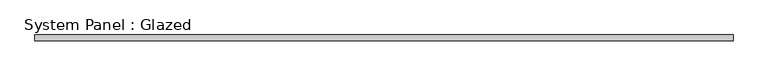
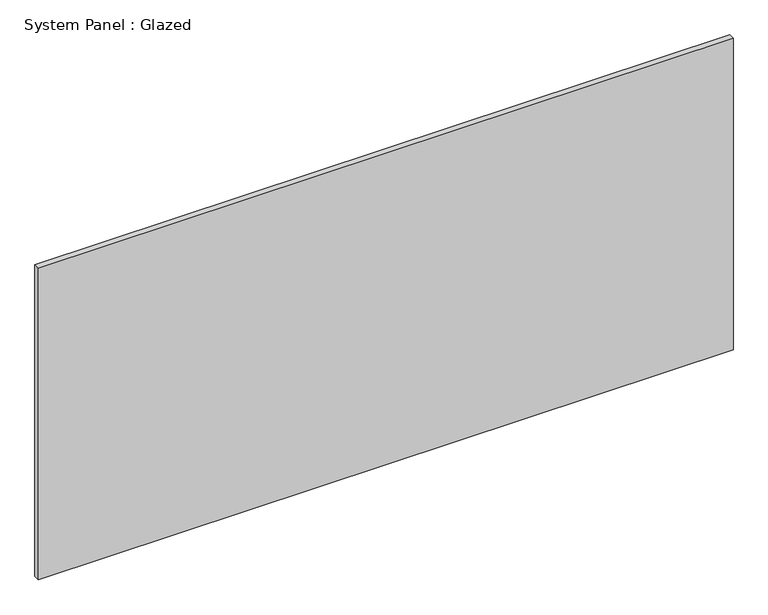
"""IFC4 building model written with IfcOpenShell, lengths in millimetres: plate geometry, System Panel : Glazed."""

from ifc_helpers import new_model, si_unit, origin, origin_with_axes, place, context, project, spatial, polyline, outline, extrude, source, transform, mapped, element, save


def system_panel_glazed_b1d937cd(model_context):
    return source(origin(), model_context, "Body", "SweptSolid", [
        extrude(outline(polyline([(1492.2499999, 19.05), (-1492.2499999, 19.05), (-1492.2499999, 44.45), (1492.2499999, 44.45), (1492.2499999, 19.05)])), origin_with_axes(), (0.0, 0.0, 1.0), 1414.6654135),
    ])


if __name__ == "__main__":
    model = new_model("IFC4")
    model_context = context("Model", 3, world=origin())
    ifc_project = project(units=[si_unit("LENGTHUNIT", "METRE", prefix="MILLI")], contexts=[model_context])
    site = spatial("IfcSite", under=ifc_project)
    building = spatial("IfcBuilding", under=site)
    placement = place(None, origin())
    system_panel_glazed_shape = system_panel_glazed_b1d937cd(model_context)
    element("IfcPlate", 1, ObjectType="System Panel : Glazed", at=placement, inside=building, context=model_context, shape_type="MappedRepresentation", body=[
        mapped(system_panel_glazed_shape, transform((0.0, 0.0, 0.0), x_axis=(1.0, 0.0, 0.0), y_axis=(0.0, 1.0, 0.0), z_axis=(0.0, 0.0, 1.0))),
    ])
    save(model, "model.ifc")
